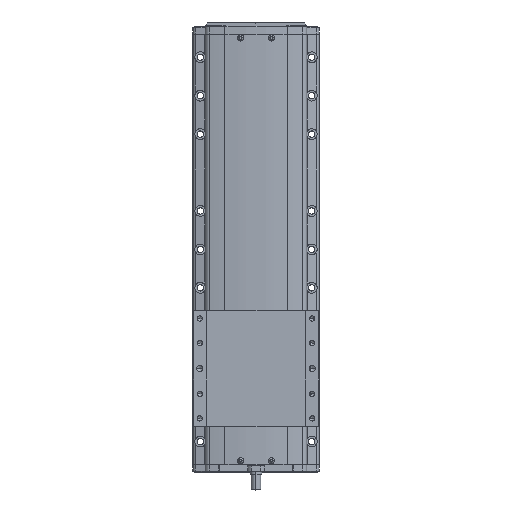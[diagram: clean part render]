
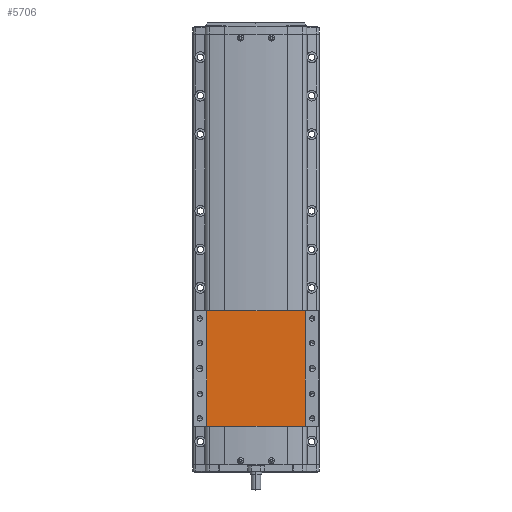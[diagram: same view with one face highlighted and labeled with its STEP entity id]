
A CAD part, top view. The second image highlights one B-rep face of the part: STEP entity #5706.
In plain terms, the highlighted planar face has unit normal (0, 0, 1).
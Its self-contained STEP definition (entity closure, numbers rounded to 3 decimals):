
#5706=ADVANCED_FACE('',(#11509),#11510,.F.);
#11509=FACE_OUTER_BOUND('',#19580,.T.);
#11510=PLANE('',#19581);
#19580=EDGE_LOOP('',(#36656,#36657,#36658,#36659));
#19581=AXIS2_PLACEMENT_3D('',#36660,#36661,#36662);
#36656=ORIENTED_EDGE('',*,*,#43182,.F.);
#36657=ORIENTED_EDGE('',*,*,#38259,.F.);
#36658=ORIENTED_EDGE('',*,*,#43387,.F.);
#36659=ORIENTED_EDGE('',*,*,#41028,.T.);
#36660=CARTESIAN_POINT('',(-600.,222.222,51.5));
#36661=DIRECTION('',(0.,0.,-1.0));
#36662=DIRECTION('',(-1.0,0.,0.));
#38259=EDGE_CURVE('',#46140,#46136,#46142,.T.);
#41028=EDGE_CURVE('',#50421,#50419,#50422,.T.);
#43182=EDGE_CURVE('',#46136,#50419,#53139,.T.);
#43387=EDGE_CURVE('',#50421,#46140,#53350,.T.);
#46136=VERTEX_POINT('',#57368);
#46140=VERTEX_POINT('',#57373);
#46142=LINE('',#57375,#57376);
#50419=VERTEX_POINT('',#63834);
#50421=VERTEX_POINT('',#63836);
#50422=LINE('',#63837,#63838);
#53139=LINE('',#68026,#68027);
#53350=LINE('',#68304,#68305);
#57368=CARTESIAN_POINT('',(-664.376,372.222,51.5));
#57373=CARTESIAN_POINT('',(-664.376,222.222,51.5));
#57375=CARTESIAN_POINT('',(-664.376,222.222,51.5));
#57376=VECTOR('',#70327,10.0);
#63834=CARTESIAN_POINT('',(-535.624,372.222,51.5));
#63836=CARTESIAN_POINT('',(-535.624,222.222,51.5));
#63837=CARTESIAN_POINT('',(-535.624,222.222,51.5));
#63838=VECTOR('',#73534,10.0);
#68026=CARTESIAN_POINT('',(-535.624,372.222,51.5));
#68027=VECTOR('',#75745,10.0);
#68304=CARTESIAN_POINT('',(-535.624,222.222,51.5));
#68305=VECTOR('',#75908,10.0);
#70327=DIRECTION('',(0.,1.0,0.));
#73534=DIRECTION('',(0.,1.0,0.));
#75745=DIRECTION('',(1.0,0.,0.));
#75908=DIRECTION('',(-1.0,0.,0.));
